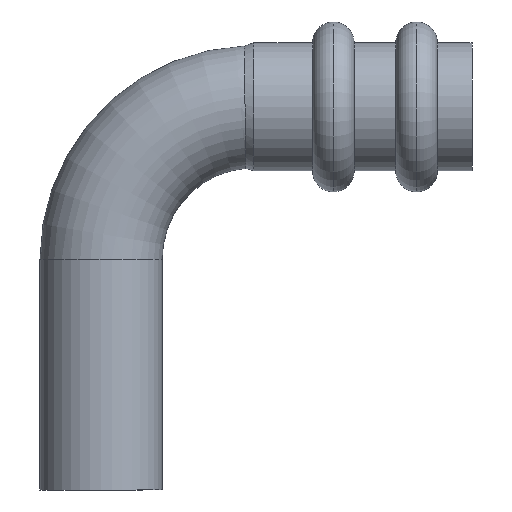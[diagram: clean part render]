
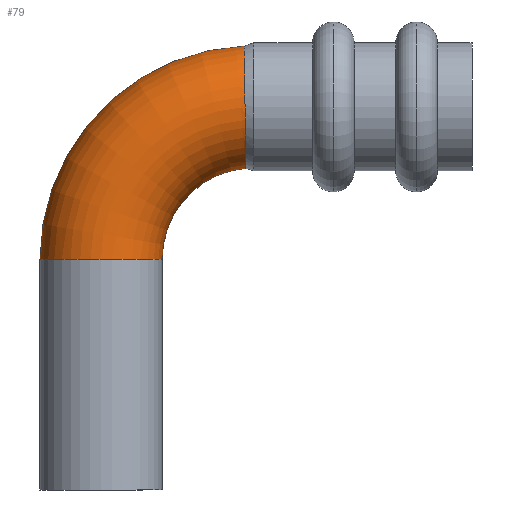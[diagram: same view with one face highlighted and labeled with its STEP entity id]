
A CAD part, front view. The second image highlights one B-rep face of the part: STEP entity #79.
In plain terms, the highlighted toroidal (fillet/blend) face has major radius 22 mm and minor radius 8.812 mm.
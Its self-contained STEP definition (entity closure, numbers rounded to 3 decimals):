
#79=ADVANCED_FACE('',(#202),#203,.T.);
#202=FACE_OUTER_BOUND('',#377,.T.);
#203=TOROIDAL_SURFACE('',#378,22.,8.812);
#377=EDGE_LOOP('',(#553,#554,#555,#556,#557));
#378=AXIS2_PLACEMENT_3D('',#558,#559,#560);
#553=ORIENTED_EDGE('',*,*,#977,.F.);
#554=ORIENTED_EDGE('',*,*,#978,.T.);
#555=ORIENTED_EDGE('',*,*,#979,.T.);
#556=ORIENTED_EDGE('',*,*,#980,.F.);
#557=ORIENTED_EDGE('',*,*,#981,.T.);
#558=CARTESIAN_POINT('',(22.,0.,33.5));
#559=DIRECTION('',(0.,1.0,0.));
#560=DIRECTION('',(1.0,0.,0.0));
#977=EDGE_CURVE('',#1145,#1146,#1147,.T.);
#978=EDGE_CURVE('',#1145,#1148,#1149,.T.);
#979=EDGE_CURVE('',#1148,#1150,#1151,.T.);
#980=EDGE_CURVE('',#1152,#1150,#1153,.T.);
#981=EDGE_CURVE('',#1152,#1146,#1154,.T.);
#1145=VERTEX_POINT('',#1488);
#1146=VERTEX_POINT('',#1489);
#1147=CIRCLE('',#1490,30.812);
#1148=VERTEX_POINT('',#1491);
#1149=CIRCLE('',#1492,8.812);
#1150=VERTEX_POINT('',#1493);
#1151=CIRCLE('',#1494,8.812);
#1152=VERTEX_POINT('',#1495);
#1153=CIRCLE('',#1496,13.188);
#1154=B_SPLINE_CURVE_WITH_KNOTS('',3,(#1497,#1498,#1499,#1500,#1501,#1502,#1503,#1504,#1505,#1506,#1507,#1508,#1509,#1510,#1511,#1512,#1513,#1514,#1515,#1516),.UNSPECIFIED.,.F.,.F.,(4,2,2,2,2,2,2,2,2,4),(-1.094,-1.058,-0.934,-0.796,-0.663,-0.532,-0.401,-0.269,-0.135,-0.0),.UNSPECIFIED.);
#1488=CARTESIAN_POINT('',(-8.812,0.,33.5));
#1489=CARTESIAN_POINT('',(20.677,0.,64.283));
#1490=AXIS2_PLACEMENT_3D('',#1881,#1882,#1883);
#1491=CARTESIAN_POINT('',(0.,-8.812,33.5));
#1492=AXIS2_PLACEMENT_3D('',#1884,#1885,#1886);
#1493=CARTESIAN_POINT('',(8.812,0.,33.5));
#1494=AXIS2_PLACEMENT_3D('',#1887,#1888,#1889);
#1495=CARTESIAN_POINT('',(20.9,0.,46.642));
#1496=AXIS2_PLACEMENT_3D('',#1890,#1891,#1892);
#1497=CARTESIAN_POINT('',(20.9,0.,46.642));
#1498=CARTESIAN_POINT('',(20.9,-0.299,46.642));
#1499=CARTESIAN_POINT('',(20.9,-0.599,46.658));
#1500=CARTESIAN_POINT('',(20.897,-1.942,46.795));
#1501=CARTESIAN_POINT('',(20.891,-2.959,47.089));
#1502=CARTESIAN_POINT('',(20.872,-4.945,48.071));
#1503=CARTESIAN_POINT('',(20.858,-5.877,48.79));
#1504=CARTESIAN_POINT('',(20.83,-7.385,50.522));
#1505=CARTESIAN_POINT('',(20.815,-7.956,51.509));
#1506=CARTESIAN_POINT('',(20.785,-8.688,53.624));
#1507=CARTESIAN_POINT('',(20.771,-8.851,54.731));
#1508=CARTESIAN_POINT('',(20.745,-8.757,56.947));
#1509=CARTESIAN_POINT('',(20.734,-8.501,58.036));
#1510=CARTESIAN_POINT('',(20.714,-7.596,60.073));
#1511=CARTESIAN_POINT('',(20.705,-6.95,61.));
#1512=CARTESIAN_POINT('',(20.691,-5.338,62.572));
#1513=CARTESIAN_POINT('',(20.686,-4.383,63.199));
#1514=CARTESIAN_POINT('',(20.679,-2.277,64.06));
#1515=CARTESIAN_POINT('',(20.677,-1.144,64.283));
#1516=CARTESIAN_POINT('',(20.677,0.,64.283));
#1881=CARTESIAN_POINT('',(22.,0.,33.5));
#1882=DIRECTION('',(0.,1.0,0.));
#1883=DIRECTION('',(0.0,0.,1.0));
#1884=CARTESIAN_POINT('',(0.0,0.,33.5));
#1885=DIRECTION('',(0.,0.,1.0));
#1886=DIRECTION('',(-1.0,0.,0.));
#1887=CARTESIAN_POINT('',(0.0,0.,33.5));
#1888=DIRECTION('',(0.,0.,1.0));
#1889=DIRECTION('',(-1.0,0.,0.));
#1890=CARTESIAN_POINT('',(22.,0.,33.5));
#1891=DIRECTION('',(0.,-1.0,0.));
#1892=DIRECTION('',(0.0,0.,1.0));
